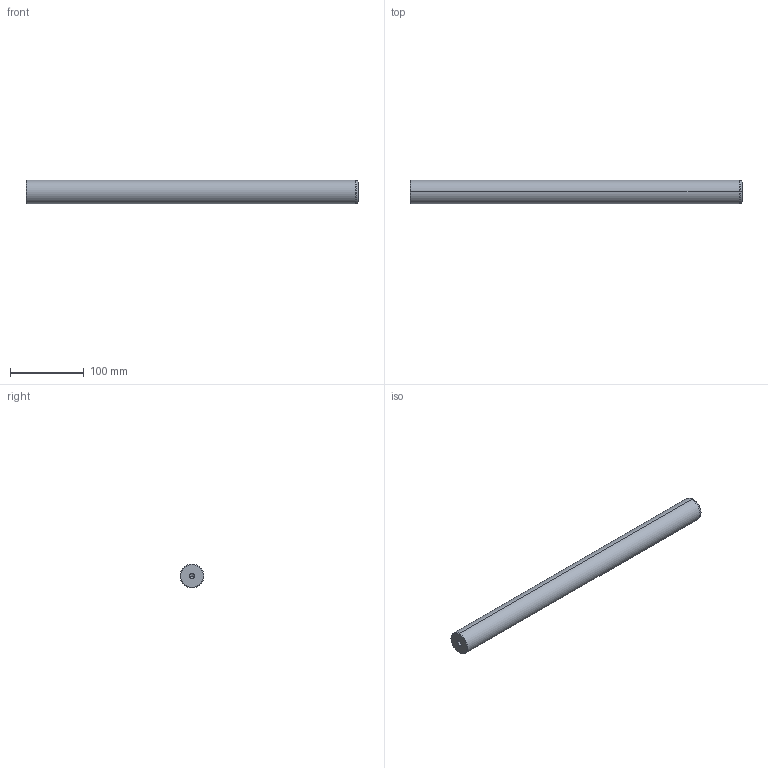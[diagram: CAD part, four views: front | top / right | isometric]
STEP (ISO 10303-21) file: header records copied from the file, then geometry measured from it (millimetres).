
FILE_DESCRIPTION(('CATIA V5 STEP Exchange'),'2;1');
FILE_NAME('C:\Users\Utente\Desktop\IO LAVORO\3D X SITO CF\X SITO\720\720-32x450.stp','2021-01-01T12:10:08+00:00',('none'),('none'),'CATIA Version 5 Release 20 GA (IN-10)','CATIA V5 STEP AP203','none');
FILE_SCHEMA(('CONFIG_CONTROL_DESIGN'));
Length unit declared in the file: millimetre
Products named in the file (1): 720-32x450
Bounding box: 450 x 32 x 32 mm (x, y, z)
Volume: 359859 mm3; surface area: 47631.7 mm2
Topology: 1 solids, 1 shells, 22 faces, 62 edges, 40 vertices
Faces by surface type: cone 12, cylinder 6, plane 2, torus 2
Entity records: 806 total; most frequent: CARTESIAN_POINT 229, ORIENTED_EDGE 116, DIRECTION 93, EDGE_CURVE 58, AXIS2_PLACEMENT_3D 54, VERTEX_POINT 40, CIRCLE 31, EDGE_LOOP 24
